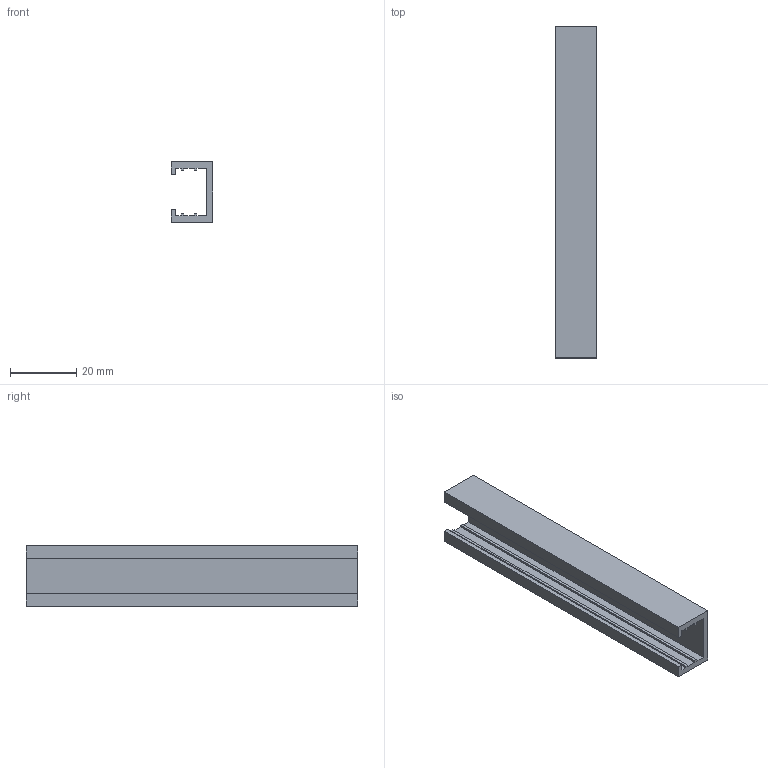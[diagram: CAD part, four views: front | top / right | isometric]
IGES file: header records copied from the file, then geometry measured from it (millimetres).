
Start section: Data from Parasolid IGES Translator 20.0.26, Copyright(c) 2006 Siemens P LM Software. All Rights Reserved.
Global section: file name: 9303922.igs; native system: By Siemens PLM Incorporated; preprocessor: XPlus GENERIC/IGES 20.0.26; author: Noname; organization: Noname; date: 20210826.154736; units: millimetre
Bounding box: 12.4 x 100 x 18.2 mm (x, y, z)
Surface area: 9602.8 mm2 (no closed solid volume)
Topology: 0 solids, 0 shells, 30 faces, 168 edges, 168 vertices
Faces by surface type: extrusion 30
